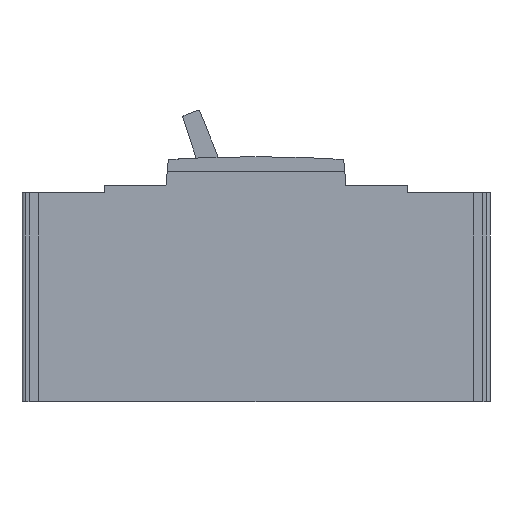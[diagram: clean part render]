
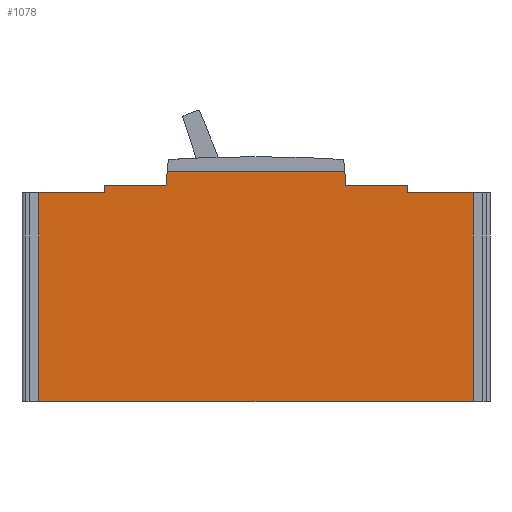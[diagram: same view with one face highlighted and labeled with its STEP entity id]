
A CAD part, left-side view. The second image highlights one B-rep face of the part: STEP entity #1078.
In plain terms, the highlighted planar face has unit normal (-1, 0, 0).
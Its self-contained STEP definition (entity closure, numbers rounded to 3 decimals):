
#41 = ORIENTED_EDGE ( 'NONE', *, *, #1826, .T. ) ;
#83 = EDGE_CURVE ( 'NONE', #2560, #3283, #359, .T. ) ;
#92 = LINE ( 'NONE', #3861, #1121 ) ;
#99 = ORIENTED_EDGE ( 'NONE', *, *, #2489, .F. ) ;
#118 = CARTESIAN_POINT ( 'NONE',  ( -12.3, -42., 0. ) ) ;
#198 = ORIENTED_EDGE ( 'NONE', *, *, #2278, .F. ) ;
#292 = CARTESIAN_POINT ( 'NONE',  ( -12.3, -60.3, 0. ) ) ;
#359 = CIRCLE ( 'NONE', #3562, 0.3 ) ;
#419 = DIRECTION ( 'NONE',  ( 0., -1., 0. ) ) ;
#443 = VERTEX_POINT ( 'NONE', #3957 ) ;
#461 = VERTEX_POINT ( 'NONE', #1352 ) ;
#477 = DIRECTION ( 'NONE',  ( 0., -1., 0. ) ) ;
#509 = VERTEX_POINT ( 'NONE', #1517 ) ;
#545 = ORIENTED_EDGE ( 'NONE', *, *, #83, .F. ) ;
#601 = CARTESIAN_POINT ( 'NONE',  ( -12.3, 0., 58. ) ) ;
#660 = CIRCLE ( 'NONE', #1158, 0.3 ) ;
#674 = EDGE_CURVE ( 'NONE', #3283, #4472, #2626, .T. ) ;
#688 = VECTOR ( 'NONE', #477, 1000. ) ;
#732 = VERTEX_POINT ( 'NONE', #1660 ) ;
#794 = CARTESIAN_POINT ( 'NONE',  ( -12.3, 25., 60. ) ) ;
#811 = EDGE_CURVE ( 'NONE', #3353, #1786, #3484, .T. ) ;
#838 = CARTESIAN_POINT ( 'NONE',  ( -12.3, 24.375, 63.7 ) ) ;
#925 = DIRECTION ( 'NONE',  ( 0., -0.087, 0.996 ) ) ;
#1078 = ADVANCED_FACE ( 'NONE', ( #3334 ), #1913, .F. ) ;
#1096 = LINE ( 'NONE', #2908, #2906 ) ;
#1101 = VECTOR ( 'NONE', #2015, 1000. ) ;
#1121 = VECTOR ( 'NONE', #419, 1000. ) ;
#1158 = AXIS2_PLACEMENT_3D ( 'NONE', #4559, #3782, #4190 ) ;
#1192 = DIRECTION ( 'NONE',  ( 1., 0., 0. ) ) ;
#1231 = EDGE_CURVE ( 'NONE', #4472, #509, #660, .T. ) ;
#1238 = CARTESIAN_POINT ( 'NONE',  ( -12.3, 42., 60. ) ) ;
#1299 = VERTEX_POINT ( 'NONE', #3111 ) ;
#1334 = AXIS2_PLACEMENT_3D ( 'NONE', #1550, #1192, #3029 ) ;
#1352 = CARTESIAN_POINT ( 'NONE',  ( -12.3, -60.3, 0. ) ) ;
#1443 = EDGE_CURVE ( 'NONE', #1654, #3349, #92, .T. ) ;
#1457 = DIRECTION ( 'NONE',  ( 0., 1., 0. ) ) ;
#1517 = CARTESIAN_POINT ( 'NONE',  ( -12.3, -24.674, 63.726 ) ) ;
#1527 = CARTESIAN_POINT ( 'NONE',  ( -12.3, 42., 0. ) ) ;
#1538 = ORIENTED_EDGE ( 'NONE', *, *, #2991, .F. ) ;
#1550 = CARTESIAN_POINT ( 'NONE',  ( -12.3, 60.3, 0. ) ) ;
#1604 = VECTOR ( 'NONE', #4601, 1000. ) ;
#1634 = CARTESIAN_POINT ( 'NONE',  ( -12.3, 0., 64. ) ) ;
#1654 = VERTEX_POINT ( 'NONE', #1238 ) ;
#1660 = CARTESIAN_POINT ( 'NONE',  ( -12.3, 42., 58. ) ) ;
#1786 = VERTEX_POINT ( 'NONE', #4556 ) ;
#1790 = LINE ( 'NONE', #3090, #4475 ) ;
#1803 = ORIENTED_EDGE ( 'NONE', *, *, #674, .F. ) ;
#1826 = EDGE_CURVE ( 'NONE', #461, #4533, #3435, .T. ) ;
#1841 = CARTESIAN_POINT ( 'NONE',  ( -12.3, 24.375, 64. ) ) ;
#1913 = PLANE ( 'NONE',  #1334 ) ;
#2015 = DIRECTION ( 'NONE',  ( 0., -0.087, -0.996 ) ) ;
#2016 = LINE ( 'NONE', #3341, #4287 ) ;
#2071 = CARTESIAN_POINT ( 'NONE',  ( -12.3, 0., 60. ) ) ;
#2097 = CARTESIAN_POINT ( 'NONE',  ( -12.3, -24.375, 64. ) ) ;
#2136 = EDGE_CURVE ( 'NONE', #461, #2141, #4692, .T. ) ;
#2141 = VERTEX_POINT ( 'NONE', #2568 ) ;
#2167 = ORIENTED_EDGE ( 'NONE', *, *, #4380, .F. ) ;
#2278 = EDGE_CURVE ( 'NONE', #2141, #443, #1096, .T. ) ;
#2374 = EDGE_CURVE ( 'NONE', #1786, #1299, #3489, .T. ) ;
#2468 = ORIENTED_EDGE ( 'NONE', *, *, #1231, .F. ) ;
#2475 = CARTESIAN_POINT ( 'NONE',  ( -12.3, 24.674, 63.726 ) ) ;
#2489 = EDGE_CURVE ( 'NONE', #1299, #4533, #3776, .T. ) ;
#2535 = DIRECTION ( 'NONE',  ( 0., 0., 1. ) ) ;
#2560 = VERTEX_POINT ( 'NONE', #2475 ) ;
#2568 = CARTESIAN_POINT ( 'NONE',  ( -12.3, 60.3, 0. ) ) ;
#2578 = DIRECTION ( 'NONE',  ( 0., 0., 1. ) ) ;
#2586 = CARTESIAN_POINT ( 'NONE',  ( -12.3, -25., 60. ) ) ;
#2621 = DIRECTION ( 'NONE',  ( 0., -1., 0. ) ) ;
#2626 = LINE ( 'NONE', #1634, #688 ) ;
#2707 = ORIENTED_EDGE ( 'NONE', *, *, #2136, .F. ) ;
#2816 = ORIENTED_EDGE ( 'NONE', *, *, #2374, .F. ) ;
#2848 = VECTOR ( 'NONE', #3184, 1000. ) ;
#2906 = VECTOR ( 'NONE', #2535, 1000. ) ;
#2908 = CARTESIAN_POINT ( 'NONE',  ( -12.3, 60.3, 0. ) ) ;
#2991 = EDGE_CURVE ( 'NONE', #3349, #2560, #1790, .T. ) ;
#3029 = DIRECTION ( 'NONE',  ( 0., 1., 0. ) ) ;
#3044 = ORIENTED_EDGE ( 'NONE', *, *, #811, .F. ) ;
#3090 = CARTESIAN_POINT ( 'NONE',  ( -12.3, 30.02, 2.626 ) ) ;
#3111 = CARTESIAN_POINT ( 'NONE',  ( -12.3, -42., 58. ) ) ;
#3184 = DIRECTION ( 'NONE',  ( 0., 0., 1. ) ) ;
#3283 = VERTEX_POINT ( 'NONE', #1841 ) ;
#3317 = ORIENTED_EDGE ( 'NONE', *, *, #3779, .F. ) ;
#3334 = FACE_OUTER_BOUND ( 'NONE', #3987, .T. ) ;
#3341 = CARTESIAN_POINT ( 'NONE',  ( -12.3, 0., 58. ) ) ;
#3349 = VERTEX_POINT ( 'NONE', #794 ) ;
#3353 = VERTEX_POINT ( 'NONE', #2586 ) ;
#3381 = DIRECTION ( 'NONE',  ( 0., 0., -1. ) ) ;
#3418 = DIRECTION ( 'NONE',  ( 1., 0., 0. ) ) ;
#3435 = LINE ( 'NONE', #292, #2848 ) ;
#3484 = LINE ( 'NONE', #2071, #3706 ) ;
#3489 = LINE ( 'NONE', #118, #3551 ) ;
#3522 = CARTESIAN_POINT ( 'NONE',  ( -12.3, -60.3, 58. ) ) ;
#3551 = VECTOR ( 'NONE', #3381, 1000. ) ;
#3562 = AXIS2_PLACEMENT_3D ( 'NONE', #838, #3418, #4491 ) ;
#3666 = LINE ( 'NONE', #1527, #4132 ) ;
#3702 = CARTESIAN_POINT ( 'NONE',  ( -12.3, 60.3, 0. ) ) ;
#3706 = VECTOR ( 'NONE', #4617, 1000. ) ;
#3776 = LINE ( 'NONE', #601, #1604 ) ;
#3779 = EDGE_CURVE ( 'NONE', #732, #1654, #3666, .T. ) ;
#3782 = DIRECTION ( 'NONE',  ( 1., 0., 0. ) ) ;
#3793 = CARTESIAN_POINT ( 'NONE',  ( -12.3, -30.02, 2.626 ) ) ;
#3861 = CARTESIAN_POINT ( 'NONE',  ( -12.3, 0., 60. ) ) ;
#3957 = CARTESIAN_POINT ( 'NONE',  ( -12.3, 60.3, 58. ) ) ;
#3987 = EDGE_LOOP ( 'NONE', ( #198, #2707, #41, #99, #2816, #3044, #2167, #2468, #1803, #545, #1538, #4278, #3317, #4262 ) ) ;
#4132 = VECTOR ( 'NONE', #2578, 1000. ) ;
#4190 = DIRECTION ( 'NONE',  ( 0., 1., 0. ) ) ;
#4236 = LINE ( 'NONE', #3793, #1101 ) ;
#4238 = VECTOR ( 'NONE', #1457, 1000. ) ;
#4262 = ORIENTED_EDGE ( 'NONE', *, *, #4273, .F. ) ;
#4273 = EDGE_CURVE ( 'NONE', #443, #732, #2016, .T. ) ;
#4278 = ORIENTED_EDGE ( 'NONE', *, *, #1443, .F. ) ;
#4287 = VECTOR ( 'NONE', #2621, 1000. ) ;
#4380 = EDGE_CURVE ( 'NONE', #509, #3353, #4236, .T. ) ;
#4472 = VERTEX_POINT ( 'NONE', #2097 ) ;
#4475 = VECTOR ( 'NONE', #925, 1000. ) ;
#4491 = DIRECTION ( 'NONE',  ( 0., 1., 0. ) ) ;
#4533 = VERTEX_POINT ( 'NONE', #3522 ) ;
#4556 = CARTESIAN_POINT ( 'NONE',  ( -12.3, -42., 60. ) ) ;
#4559 = CARTESIAN_POINT ( 'NONE',  ( -12.3, -24.375, 63.7 ) ) ;
#4601 = DIRECTION ( 'NONE',  ( 0., -1., 0. ) ) ;
#4617 = DIRECTION ( 'NONE',  ( 0., -1., 0. ) ) ;
#4692 = LINE ( 'NONE', #3702, #4238 ) ;
